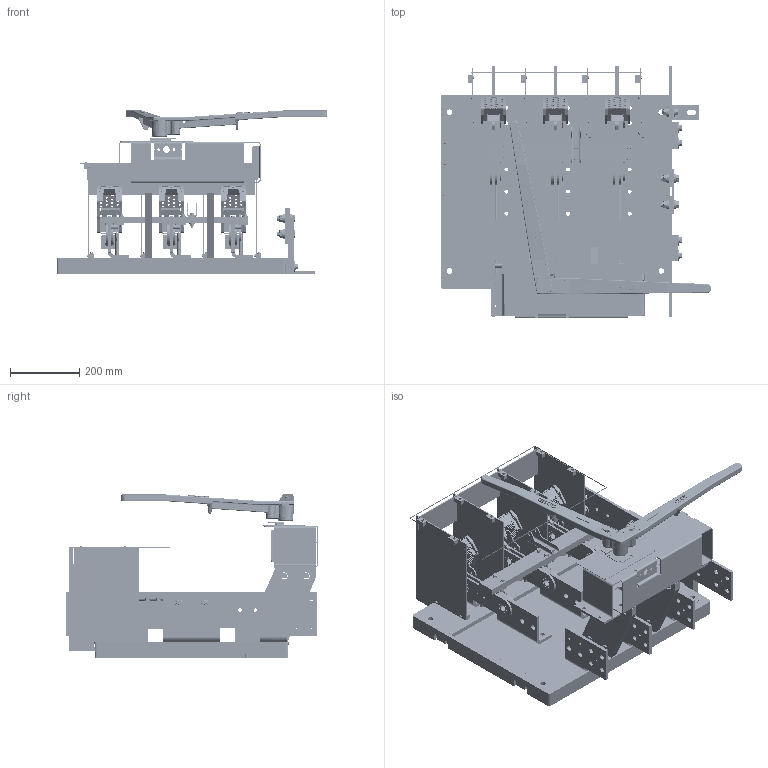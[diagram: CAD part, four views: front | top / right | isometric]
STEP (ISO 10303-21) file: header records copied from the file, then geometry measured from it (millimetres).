
FILE_DESCRIPTION(/* description */ (''),/* implementation_level */ '2;1');
FILE_NAME(/* name */ 'H:\switches\3d-templates\catalog-switches-iges-files\catalog-vl468N.stp',/* time_stamp */ '2022-03-22T14:06:45-05:00',/* author */ ('MKingston'),/* organization */ (''),/* preprocessor_version */ 'ST-DEVELOPER v18.1',/* originating_system */ 'Autodesk Inventor 2022',/* authorisation */ '');
FILE_SCHEMA (('AUTOMOTIVE_DESIGN { 1 0 10303 214 3 1 1 }'));
Products named in the file (65): catalog-vl368; 277; 668-D; 668-E; 668-C; 820-bw1; 820-fw3; 223-d-transparent; catalog-368-blade-assy; 67-AL; 67-AR; 67-fc3; 67-gc3; 235-b; 230-a; catalog-arc-chute-assy; 50-QRX; 50-QLX; 56-QJT; 56-QJB; 56-QJS; 57-QJSB; 57-QJST; 363-da; 363-db; 246-a; 221-RP,R3; 255-z; 255-bha; 178-c; 178-b; 255-c; 1200-VL-NEUTRAL-NO-GFI; 675-a; 675-df; 676-k; 677-e; 678-r; Bolted Connection; ANSI B18.2.1 - 1/2-13 UNC - 1.75, HCSI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
Assembly tree (191 placements, depth 4):
  catalog-vl368
    277
    668-D  x3
    668-E  x3
    668-C  x3
    820-bw1
    820-fw3
    223-d-transparent
    catalog-368-blade-assy  x3
      67-AL
      67-AR
      67-fc3
      67-gc3
    235-b
    230-a
    catalog-arc-chute-assy  x3
      50-QRX
      50-QLX
      56-QJT
      56-QJB
      56-QJS
      57-QJSB
      57-QJST
      363-da
      363-db
    246-a  x2
    221-RP,R3
    178-b  x8
    255-z
    255-bha  x4
    178-c  x8
    255-c
    1200-VL-NEUTRAL-NO-GFI
      675-a  x2
      675-df  x2
      676-k  x2
      677-e
      678-r
      Bolted Connection
        ASTM F436 - 1/2, CW  x8
        ANSI B18.2.1 - 1/2-13 UNC - 1.75, HCSI  x4
        ASME B18.21.1 - 1/2, RHSLW  x4
        AS 2465 - 1/2  UNC  x4
      Bolted Connection_1
        ASTM F436 - 1/2, CW  x2
        ANSI B18.2.1 - 1/2-13 UNC - 1.5, HCSI
        ASME B18.21.1 - 1/2, RHSLW
        AS 2465 - 1/2  UNC
    672-ha
    67-ZBA  x3
    661-C  x3
    277-BP  x2
    Bolted Connection_2
      ANSI B18.22.1 - 3/8 - wide - Type B  x4
      ASME B18.21.1 - 3/8, RHSLW  x4
      ANSI B18.2.1 - 3/8-16 UNC - 2, HCSI  x4
    254  x8
    Bolted Connection_3
      ANSI B18.22.1 - 1/4 - narrow - Type A  x6
      ASME B18.21.1 - 1/4. Carbon Steel, ITLWTB(1)  x6
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Bounding box: 779.35 x 726.76 x 469.37 mm (x, y, z)
Volume: 16036811.1 mm3; surface area: 4133347.1 mm2
Topology: 212 solids, 213 shells, 7170 faces, 18159 edges, 11750 vertices
Faces by surface type: plane 3772, cylinder 1983, cone 696, bspline 454, sphere 192, torus 73
Full cylindrical faces by diameter (mm): 1.702 x8, 3.175 x4, 3.454 x4, 3.683 x8, 3.759 x12, 3.962 x5, 4.166 x32, 4.305 x42, 4.496 x24, 4.762 x4, 4.775 x8, 4.801 x8, 4.902 x8, 4.915 x24, 4.978 x5, 5.556 x3, 5.791 x6, 6.35 x48, 6.528 x55, 6.604 x8, 7.137 x10, 7.144 x12, 7.798 x14, 7.938 x21, 8.331 x2, 8.731 x2, 8.839 x32, 9.525 x7, 9.601 x2, 9.804 x2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
Entity records: 108466 total; most frequent: CARTESIAN_POINT 27293, DIRECTION 16272, ORIENTED_EDGE 16186, EDGE_CURVE 8101, AXIS2_PLACEMENT_3D 5756, VERTEX_POINT 5247, LINE 4760, VECTOR 4760
